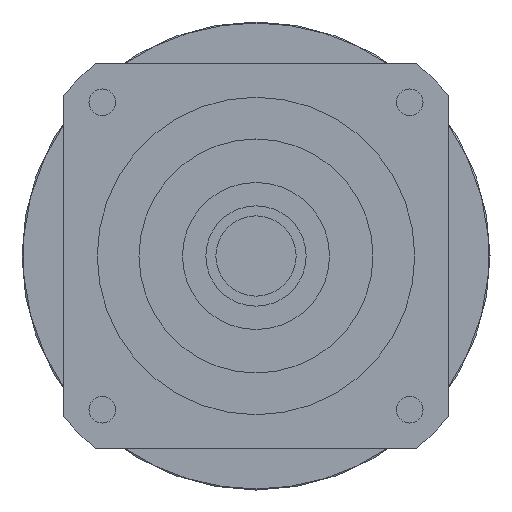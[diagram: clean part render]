
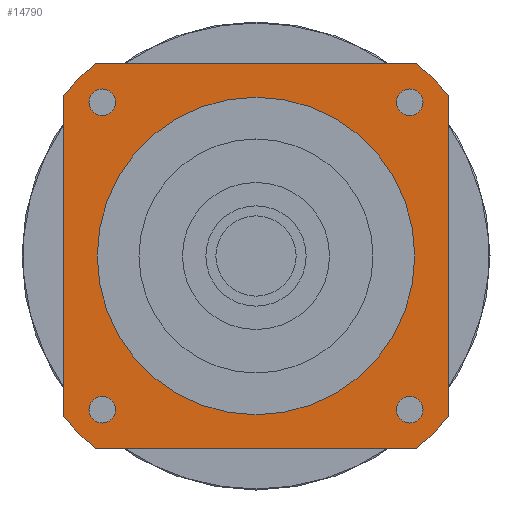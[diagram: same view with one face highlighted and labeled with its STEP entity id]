
A CAD part, left-side view. The second image highlights one B-rep face of the part: STEP entity #14790.
In plain terms, the highlighted planar face has unit normal (-1, 0, 0) as drawn and (0, 0, -1) by its records, which use the part's own axes.
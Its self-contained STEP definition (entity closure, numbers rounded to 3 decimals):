
#12510=CARTESIAN_POINT('',(57.5,48.153,-59.7));
#12520=VERTEX_POINT('',#12510);
#12550=CARTESIAN_POINT('',(57.5,57.5,-59.7));
#12560=DIRECTION('',(0.,-1.,0.));
#12570=VECTOR('',#12560,1000.);
#12580=LINE('',#12550,#12570);
#12590=CARTESIAN_POINT('',(57.5,-48.153,-59.7));
#12600=VERTEX_POINT('',#12590);
#12610=EDGE_CURVE('',#12520,#12600,#12580,.T.);
#12820=CARTESIAN_POINT('',(48.153,57.5,-59.7));
#12830=VERTEX_POINT('',#12820);
#12880=CARTESIAN_POINT('',(0.,0.,
-59.7));
#12890=DIRECTION('',(0.,0.,-1.));
#12900=DIRECTION('',(1.,0.,0.));
#12910=AXIS2_PLACEMENT_3D('',#12880,#12890,#12900);
#12920=CIRCLE('',#12910,75.);
#12930=EDGE_CURVE('',#12830,#12520,#12920,.T.);
#13170=CARTESIAN_POINT('',(48.153,-57.5,-59.7));
#13180=VERTEX_POINT('',#13170);
#13210=CARTESIAN_POINT('',(57.5,-57.5,-59.7));
#13220=DIRECTION('',(-1.,0.,0.));
#13230=VECTOR('',#13220,1000.);
#13240=LINE('',#13210,#13230);
#13250=CARTESIAN_POINT('',(-48.153,-57.5,-59.7));
#13260=VERTEX_POINT('',#13250);
#13270=EDGE_CURVE('',#13180,#13260,#13240,.T.);
#13450=CARTESIAN_POINT('',(0.,0.,
-59.7));
#13460=DIRECTION('',(0.,0.,-1.));
#13470=DIRECTION('',(1.,0.,0.));
#13480=AXIS2_PLACEMENT_3D('',#13450,#13460,#13470);
#13490=CIRCLE('',#13480,75.);
#13500=EDGE_CURVE('',#12600,#13180,#13490,.T.);
#13570=CARTESIAN_POINT('',(57.5,57.5,-59.7));
#13580=DIRECTION('',(0.,0.,-1.));
#13590=DIRECTION('',(1.,0.,0.));
#13600=AXIS2_PLACEMENT_3D('',#13570,#13580,#13590);
#13610=PLANE('',#13600);
#13620=CARTESIAN_POINT('',(-45.962,45.962,-59.7));
#13630=DIRECTION('',(0.,0.,-1.));
#13640=DIRECTION('',(-1.,0.,0.));
#13650=AXIS2_PLACEMENT_3D('',#13620,#13630,#13640);
#13660=CIRCLE('',#13650,4.);
#13670=CARTESIAN_POINT('',(-49.962,45.962,-59.7));
#13680=VERTEX_POINT('',#13670);
#13690=CARTESIAN_POINT('',(-41.962,45.962,-59.7));
#13700=VERTEX_POINT('',#13690);
#13710=EDGE_CURVE('',#13680,#13700,#13660,.T.);
#13720=ORIENTED_EDGE('',*,*,#13710,.F.);
#13730=EDGE_CURVE('',#13700,#13680,#13660,.T.);
#13740=ORIENTED_EDGE('',*,*,#13730,.F.);
#13750=EDGE_LOOP('',(#13740,#13720));
#13760=FACE_BOUND('',#13750,.T.);
#13770=CARTESIAN_POINT('',(45.962,45.962,-59.7));
#13780=DIRECTION('',(0.,0.,-1.));
#13790=DIRECTION('',(0.,1.,0.));
#13800=AXIS2_PLACEMENT_3D('',#13770,#13780,#13790);
#13810=CIRCLE('',#13800,4.);
#13820=CARTESIAN_POINT('',(45.962,49.962,-59.7));
#13830=VERTEX_POINT('',#13820);
#13840=CARTESIAN_POINT('',(45.962,41.962,-59.7));
#13850=VERTEX_POINT('',#13840);
#13860=EDGE_CURVE('',#13830,#13850,#13810,.T.);
#13870=ORIENTED_EDGE('',*,*,#13860,.F.);
#13880=EDGE_CURVE('',#13850,#13830,#13810,.T.);
#13890=ORIENTED_EDGE('',*,*,#13880,.F.);
#13900=EDGE_LOOP('',(#13890,#13870));
#13910=FACE_BOUND('',#13900,.T.);
#13920=CARTESIAN_POINT('',(0.,0.,
-59.7));
#13930=DIRECTION('',(0.,0.,1.));
#13940=DIRECTION('',(0.,1.,0.));
#13950=AXIS2_PLACEMENT_3D('',#13920,#13930,#13940);
#13960=CIRCLE('',#13950,47.5);
#13970=CARTESIAN_POINT('',(-47.5,0.,-59.7));
#13980=VERTEX_POINT('',#13970);
#13990=CARTESIAN_POINT('',(47.5,0.,-59.7));
#14000=VERTEX_POINT('',#13990);
#14010=EDGE_CURVE('',#13980,#14000,#13960,.T.);
#14020=ORIENTED_EDGE('',*,*,#14010,.T.);
#14030=CARTESIAN_POINT('',(0.,47.5,-59.7));
#14040=VERTEX_POINT('',#14030);
#14050=EDGE_CURVE('',#14040,#13980,#13960,.T.);
#14060=ORIENTED_EDGE('',*,*,#14050,.T.);
#14070=EDGE_CURVE('',#14000,#14040,#13960,.T.);
#14080=ORIENTED_EDGE('',*,*,#14070,.T.);
#14090=EDGE_LOOP('',(#14080,#14060,#14020));
#14100=FACE_BOUND('',#14090,.T.);
#14110=CARTESIAN_POINT('',(45.962,-45.962,-59.7));
#14120=DIRECTION('',(0.,0.,-1.));
#14130=DIRECTION('',(1.,0.,0.));
#14140=AXIS2_PLACEMENT_3D('',#14110,#14120,#14130);
#14150=CIRCLE('',#14140,4.);
#14160=CARTESIAN_POINT('',(49.962,-45.962,-59.7));
#14170=VERTEX_POINT('',#14160);
#14180=CARTESIAN_POINT('',(41.962,-45.962,-59.7));
#14190=VERTEX_POINT('',#14180);
#14200=EDGE_CURVE('',#14170,#14190,#14150,.T.);
#14210=ORIENTED_EDGE('',*,*,#14200,.F.);
#14220=EDGE_CURVE('',#14190,#14170,#14150,.T.);
#14230=ORIENTED_EDGE('',*,*,#14220,.F.);
#14240=EDGE_LOOP('',(#14230,#14210));
#14250=FACE_BOUND('',#14240,.T.);
#14260=CARTESIAN_POINT('',(-45.962,-45.962,-59.7));
#14270=DIRECTION('',(0.,0.,-1.));
#14280=DIRECTION('',(0.,-1.,0.));
#14290=AXIS2_PLACEMENT_3D('',#14260,#14270,#14280);
#14300=CIRCLE('',#14290,4.);
#14310=CARTESIAN_POINT('',(-45.962,-49.962,-59.7));
#14320=VERTEX_POINT('',#14310);
#14330=CARTESIAN_POINT('',(-45.962,-41.962,-59.7));
#14340=VERTEX_POINT('',#14330);
#14350=EDGE_CURVE('',#14320,#14340,#14300,.T.);
#14360=ORIENTED_EDGE('',*,*,#14350,.F.);
#14370=EDGE_CURVE('',#14340,#14320,#14300,.T.);
#14380=ORIENTED_EDGE('',*,*,#14370,.F.);
#14390=EDGE_LOOP('',(#14380,#14360));
#14400=FACE_BOUND('',#14390,.T.);
#14410=CARTESIAN_POINT('',(-57.5,57.5,-59.7));
#14420=DIRECTION('',(1.,0.,0.));
#14430=VECTOR('',#14420,1000.);
#14440=LINE('',#14410,#14430);
#14450=CARTESIAN_POINT('',(-48.153,57.5,-59.7));
#14460=VERTEX_POINT('',#14450);
#14470=EDGE_CURVE('',#14460,#12830,#14440,.T.);
#14480=ORIENTED_EDGE('',*,*,#14470,.T.);
#14490=CARTESIAN_POINT('',(0.,0.,
-59.7));
#14500=DIRECTION('',(0.,0.,-1.));
#14510=DIRECTION('',(1.,0.,0.));
#14520=AXIS2_PLACEMENT_3D('',#14490,#14500,#14510);
#14530=CIRCLE('',#14520,75.);
#14540=CARTESIAN_POINT('',(-57.5,48.153,-59.7));
#14550=VERTEX_POINT('',#14540);
#14560=EDGE_CURVE('',#14550,#14460,#14530,.T.);
#14570=ORIENTED_EDGE('',*,*,#14560,.T.);
#14580=CARTESIAN_POINT('',(-57.5,-57.5,-59.7));
#14590=DIRECTION('',(0.,1.,0.));
#14600=VECTOR('',#14590,1000.);
#14610=LINE('',#14580,#14600);
#14620=CARTESIAN_POINT('',(-57.5,-48.153,-59.7));
#14630=VERTEX_POINT('',#14620);
#14640=EDGE_CURVE('',#14630,#14550,#14610,.T.);
#14650=ORIENTED_EDGE('',*,*,#14640,.T.);
#14660=CARTESIAN_POINT('',(0.,0.,
-59.7));
#14670=DIRECTION('',(0.,0.,-1.));
#14680=DIRECTION('',(1.,0.,0.));
#14690=AXIS2_PLACEMENT_3D('',#14660,#14670,#14680);
#14700=CIRCLE('',#14690,75.);
#14710=EDGE_CURVE('',#13260,#14630,#14700,.T.);
#14720=ORIENTED_EDGE('',*,*,#14710,.T.);
#14730=ORIENTED_EDGE('',*,*,#13270,.T.);
#14740=ORIENTED_EDGE('',*,*,#13500,.T.);
#14750=ORIENTED_EDGE('',*,*,#12610,.T.);
#14760=ORIENTED_EDGE('',*,*,#12930,.T.);
#14770=EDGE_LOOP('',(#14760,#14750,#14740,#14730,#14720,#14650,#14570,
#14480));
#14780=FACE_OUTER_BOUND('',#14770,.T.);
#14790=ADVANCED_FACE('',(#13760,#13910,#14100,#14250,#14400,#14780),
#13610,.T.);
